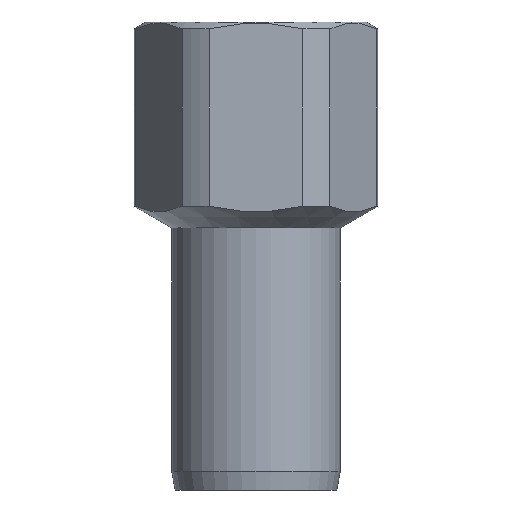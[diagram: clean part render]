
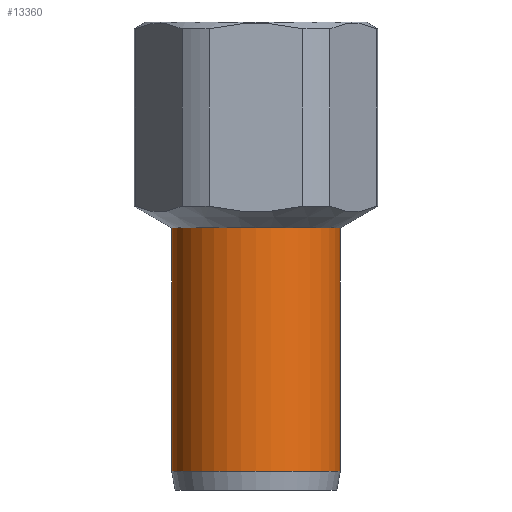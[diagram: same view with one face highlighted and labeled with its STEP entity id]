
A CAD part, left-side view. The second image highlights one B-rep face of the part: STEP entity #13360.
In plain terms, the highlighted cylindrical face has radius 9 mm (diameter 18 mm), a partial arc.
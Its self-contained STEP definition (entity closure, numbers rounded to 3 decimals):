
#10=CARTESIAN_POINT('',(0.,0.,-23.5));
#20=DIRECTION('',(0.,0.,1.));
#30=DIRECTION('',(0.,1.,0.));
#40=AXIS2_PLACEMENT_3D('',#10,#20,#30);
#50=CYLINDRICAL_SURFACE('',#40,9.);
#60=CARTESIAN_POINT('',(0.,-9.,-23.5));
#70=DIRECTION('',(0.,0.,1.));
#80=VECTOR('',#70,1.);
#90=LINE('',#60,#80);
#100=CARTESIAN_POINT('',(0.,-9.,-48.));
#110=VERTEX_POINT('',#100);
#120=CARTESIAN_POINT('',(0.,-9.,-22.));
#130=VERTEX_POINT('',#120);
#140=EDGE_CURVE('',#110,#130,#90,.T.);
#160=CARTESIAN_POINT('',(0.,0.,-22.));
#170=DIRECTION('',(0.,0.,-1.));
#180=DIRECTION('',(0.,1.,0.));
#190=AXIS2_PLACEMENT_3D('',#160,#170,#180);
#200=CIRCLE('',#190,9.);
#210=CARTESIAN_POINT('',(0.,9.,-22.));
#220=VERTEX_POINT('',#210);
#250=CARTESIAN_POINT('',(0.,9.,-23.5));
#260=DIRECTION('',(0.,0.,1.));
#270=VECTOR('',#260,1.);
#280=LINE('',#250,#270);
#290=CARTESIAN_POINT('',(0.,9.,-48.));
#300=VERTEX_POINT('',#290);
#310=EDGE_CURVE('',#300,#220,#280,.T.);
#330=CARTESIAN_POINT('',(0.,0.,-48.));
#340=DIRECTION('',(0.,0.,1.));
#350=DIRECTION('',(0.,1.,0.));
#360=AXIS2_PLACEMENT_3D('',#330,#340,#350);
#370=CIRCLE('',#360,9.);
#13240=EDGE_CURVE('',#130,#220,#200,.T.);
#13290=ORIENTED_EDGE('',*,*,#140,.T.);
#13300=EDGE_CURVE('',#300,#110,#370,.T.);
#13310=ORIENTED_EDGE('',*,*,#13300,.T.);
#13320=ORIENTED_EDGE('',*,*,#310,.F.);
#13330=ORIENTED_EDGE('',*,*,#13240,.T.);
#13340=EDGE_LOOP('',(#13330,#13320,#13310,#13290));
#13350=FACE_OUTER_BOUND('',#13340,.T.);
#13360=ADVANCED_FACE('',(#13350),#50,.T.);
